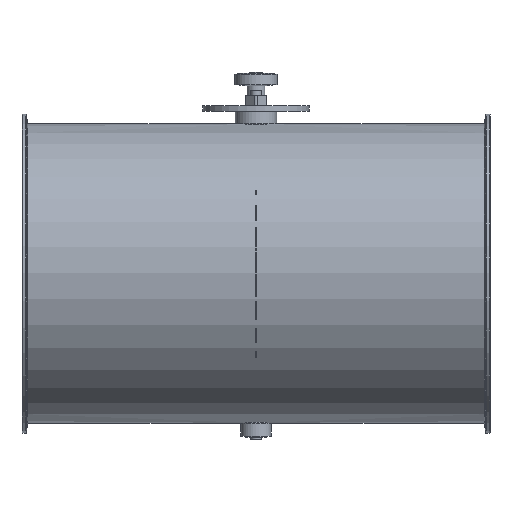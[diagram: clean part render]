
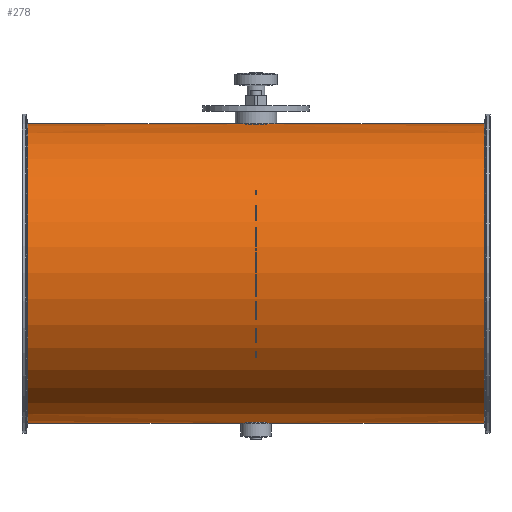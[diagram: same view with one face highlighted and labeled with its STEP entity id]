
A CAD part, top view. The second image highlights one B-rep face of the part: STEP entity #278.
In plain terms, the highlighted cylindrical face has radius 140.8 mm (diameter 281.6 mm), a full revolution.
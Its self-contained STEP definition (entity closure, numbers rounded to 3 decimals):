
#211=B_SPLINE_CURVE_WITH_KNOTS('',3,(#1760,#1761,#1762,#1763,#1764,#1765,
#1766,#1767,#1768,#1769,#1770,#1771,#1772,#1773,#1774,#1775,#1776,#1777),
 .UNSPECIFIED.,.T.,.F.,(2,2,2,2,2,2,2,2,2,2,2),(-0.125,0.,0.125,
0.25,0.375,0.5,0.625,0.75,0.875,
1.,1.125),.UNSPECIFIED.);
#212=B_SPLINE_CURVE_WITH_KNOTS('',3,(#1779,#1780,#1781,#1782,#1783,#1784,
#1785,#1786,#1787,#1788,#1789,#1790,#1791,#1792,#1793,#1794,#1795,#1796),
 .UNSPECIFIED.,.T.,.F.,(2,2,2,2,2,2,2,2,2,2,2),(-0.125,0.,0.125,
0.25,0.375,0.5,0.625,0.75,0.875,
1.,1.125),.UNSPECIFIED.);
#241=CYLINDRICAL_SURFACE('',#1240,140.8);
#278=ADVANCED_FACE('',(#407,#408,#409,#410),#241,.T.);
#407=FACE_BOUND('',#547,.T.);
#408=FACE_BOUND('',#548,.T.);
#409=FACE_BOUND('',#549,.T.);
#410=FACE_BOUND('',#550,.T.);
#547=EDGE_LOOP('',(#709));
#548=EDGE_LOOP('',(#710));
#549=EDGE_LOOP('',(#711));
#550=EDGE_LOOP('',(#712));
#709=ORIENTED_EDGE('',*,*,#1043,.T.);
#710=ORIENTED_EDGE('',*,*,#1044,.F.);
#711=ORIENTED_EDGE('',*,*,#1045,.F.);
#712=ORIENTED_EDGE('',*,*,#1046,.T.);
#941=VERTEX_POINT('',#1759);
#942=VERTEX_POINT('',#1778);
#943=VERTEX_POINT('',#1797);
#944=VERTEX_POINT('',#1799);
#1043=EDGE_CURVE('',#941,#941,#1161,.T.);
#1044=EDGE_CURVE('',#942,#942,#211,.T.);
#1045=EDGE_CURVE('',#943,#943,#212,.T.);
#1046=EDGE_CURVE('',#944,#944,#1162,.T.);
#1161=CIRCLE('',#1238,140.8);
#1162=CIRCLE('',#1239,140.8);
#1238=AXIS2_PLACEMENT_3D('',#1758,#1405,#1406);
#1239=AXIS2_PLACEMENT_3D('',#1798,#1407,#1408);
#1240=AXIS2_PLACEMENT_3D('',#1800,#1409,#1410);
#1405=DIRECTION('',(-1.,0.,0.));
#1406=DIRECTION('',(0.,0.,-1.));
#1407=DIRECTION('',(1.,0.,0.));
#1408=DIRECTION('',(0.,0.,1.));
#1409=DIRECTION('',(1.,0.,0.));
#1410=DIRECTION('',(0.,0.,-1.));
#1758=CARTESIAN_POINT('',(214.804,-51.,125.));
#1759=CARTESIAN_POINT('',(214.804,-51.,-15.8));
#1760=CARTESIAN_POINT('',(2.643,89.444,115.));
#1761=CARTESIAN_POINT('',(-2.643,89.444,115.));
#1762=CARTESIAN_POINT('',(-5.227,89.53,116.085));
#1763=CARTESIAN_POINT('',(-8.916,89.715,119.774));
#1764=CARTESIAN_POINT('',(-9.999,89.8,122.385));
#1765=CARTESIAN_POINT('',(-10.001,89.8,127.604));
#1766=CARTESIAN_POINT('',(-8.941,89.716,130.2));
#1767=CARTESIAN_POINT('',(-5.208,89.529,133.936));
#1768=CARTESIAN_POINT('',(-2.614,89.445,134.999));
#1769=CARTESIAN_POINT('',(2.607,89.444,135.001));
#1770=CARTESIAN_POINT('',(5.219,89.529,133.92));
#1771=CARTESIAN_POINT('',(8.91,89.715,130.236));
#1772=CARTESIAN_POINT('',(9.997,89.8,127.65));
#1773=CARTESIAN_POINT('',(10.003,89.8,122.37));
#1774=CARTESIAN_POINT('',(8.921,89.715,119.781));
#1775=CARTESIAN_POINT('',(5.233,89.53,116.088));
#1776=CARTESIAN_POINT('',(2.643,89.444,115.));
#1777=CARTESIAN_POINT('',(-2.643,89.444,115.));
#1778=CARTESIAN_POINT('',(0.,89.444,115.));
#1779=CARTESIAN_POINT('',(-2.643,-191.444,115.));
#1780=CARTESIAN_POINT('',(2.643,-191.444,115.));
#1781=CARTESIAN_POINT('',(5.227,-191.53,116.085));
#1782=CARTESIAN_POINT('',(8.916,-191.715,119.774));
#1783=CARTESIAN_POINT('',(9.999,-191.8,122.385));
#1784=CARTESIAN_POINT('',(10.001,-191.8,127.604));
#1785=CARTESIAN_POINT('',(8.941,-191.716,130.2));
#1786=CARTESIAN_POINT('',(5.208,-191.529,133.936));
#1787=CARTESIAN_POINT('',(2.614,-191.445,134.999));
#1788=CARTESIAN_POINT('',(-2.607,-191.444,135.001));
#1789=CARTESIAN_POINT('',(-5.219,-191.529,133.92));
#1790=CARTESIAN_POINT('',(-8.91,-191.715,130.236));
#1791=CARTESIAN_POINT('',(-9.997,-191.8,127.65));
#1792=CARTESIAN_POINT('',(-10.003,-191.8,122.37));
#1793=CARTESIAN_POINT('',(-8.921,-191.715,119.781));
#1794=CARTESIAN_POINT('',(-5.233,-191.53,116.088));
#1795=CARTESIAN_POINT('',(-2.643,-191.444,115.));
#1796=CARTESIAN_POINT('',(2.643,-191.444,115.));
#1797=CARTESIAN_POINT('',(0.,-191.444,115.));
#1798=CARTESIAN_POINT('',(-214.804,-51.,125.));
#1799=CARTESIAN_POINT('',(-214.804,-51.,265.8));
#1800=CARTESIAN_POINT('',(-220.,-51.,125.));
